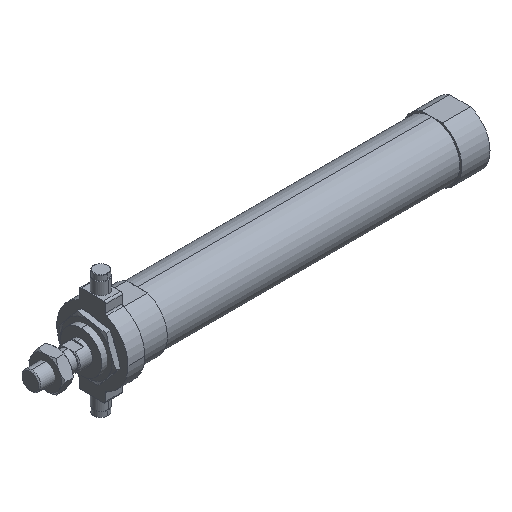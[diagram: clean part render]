
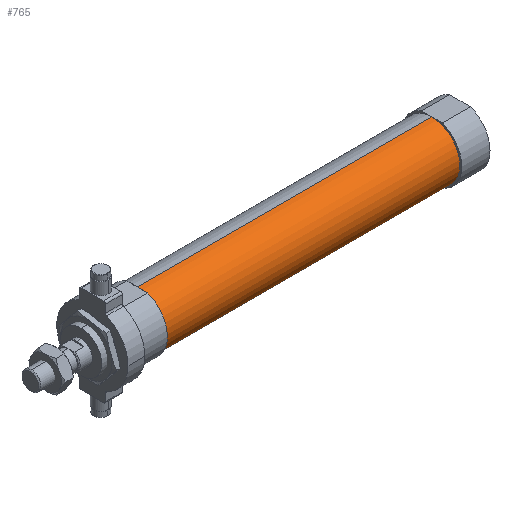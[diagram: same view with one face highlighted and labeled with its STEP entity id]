
A CAD part, isometric view. The second image highlights one B-rep face of the part: STEP entity #765.
In plain terms, the highlighted cylindrical face has radius 15 mm (diameter 30 mm), a partial arc.
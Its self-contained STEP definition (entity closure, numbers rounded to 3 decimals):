
#28 = CIRCLE ( 'NONE', #3361, 15. ) ;
#70 = DIRECTION ( 'NONE',  ( 0., 0., 1. ) ) ;
#78 = ORIENTED_EDGE ( 'NONE', *, *, #1547, .T. ) ;
#85 = VERTEX_POINT ( 'NONE', #1030 ) ;
#202 = DIRECTION ( 'NONE',  ( 0., 0., 1. ) ) ;
#522 = AXIS2_PLACEMENT_3D ( 'NONE', #779, #806, #70 ) ;
#614 = CYLINDRICAL_SURFACE ( 'NONE', #3205, 15. ) ;
#661 = LINE ( 'NONE', #1014, #4380 ) ;
#765 = ADVANCED_FACE ( 'NONE', ( #3922 ), #614, .T. ) ;
#779 = CARTESIAN_POINT ( 'NONE',  ( 57., 0., 0. ) ) ;
#806 = DIRECTION ( 'NONE',  ( -1., 0., 0. ) ) ;
#928 = VERTEX_POINT ( 'NONE', #3566 ) ;
#950 = EDGE_CURVE ( 'NONE', #85, #2887, #28, .T. ) ;
#1014 = CARTESIAN_POINT ( 'NONE',  ( -6.469, 0., 15. ) ) ;
#1015 = ORIENTED_EDGE ( 'NONE', *, *, #2729, .F. ) ;
#1030 = CARTESIAN_POINT ( 'NONE',  ( 214., 0., -15. ) ) ;
#1389 = DIRECTION ( 'NONE',  ( -1., 0., 0. ) ) ;
#1442 = ORIENTED_EDGE ( 'NONE', *, *, #2426, .F. ) ;
#1446 = CARTESIAN_POINT ( 'NONE',  ( 57., 0., 15. ) ) ;
#1547 = EDGE_CURVE ( 'NONE', #2887, #3027, #661, .T. ) ;
#1601 = DIRECTION ( 'NONE',  ( -1., 0., 0. ) ) ;
#1839 = LINE ( 'NONE', #3298, #2641 ) ;
#2206 = CARTESIAN_POINT ( 'NONE',  ( 214., 0., 0. ) ) ;
#2224 = CIRCLE ( 'NONE', #522, 15. ) ;
#2246 = DIRECTION ( 'NONE',  ( 0., 0., 1. ) ) ;
#2426 = EDGE_CURVE ( 'NONE', #928, #3027, #2224, .T. ) ;
#2641 = VECTOR ( 'NONE', #1601, 1000. ) ;
#2729 = EDGE_CURVE ( 'NONE', #85, #928, #1839, .T. ) ;
#2887 = VERTEX_POINT ( 'NONE', #3364 ) ;
#2969 = DIRECTION ( 'NONE',  ( -1., 0., 0. ) ) ;
#3027 = VERTEX_POINT ( 'NONE', #1446 ) ;
#3205 = AXIS2_PLACEMENT_3D ( 'NONE', #4299, #2969, #202 ) ;
#3298 = CARTESIAN_POINT ( 'NONE',  ( -6.469, 0., -15. ) ) ;
#3361 = AXIS2_PLACEMENT_3D ( 'NONE', #2206, #4257, #2246 ) ;
#3364 = CARTESIAN_POINT ( 'NONE',  ( 214., 0., 15. ) ) ;
#3566 = CARTESIAN_POINT ( 'NONE',  ( 57., 0., -15. ) ) ;
#3922 = FACE_OUTER_BOUND ( 'NONE', #4284, .T. ) ;
#3933 = ORIENTED_EDGE ( 'NONE', *, *, #950, .T. ) ;
#4257 = DIRECTION ( 'NONE',  ( -1., 0., 0. ) ) ;
#4284 = EDGE_LOOP ( 'NONE', ( #1015, #3933, #78, #1442 ) ) ;
#4299 = CARTESIAN_POINT ( 'NONE',  ( -6.469, 0., 0. ) ) ;
#4380 = VECTOR ( 'NONE', #1389, 1000. ) ;
